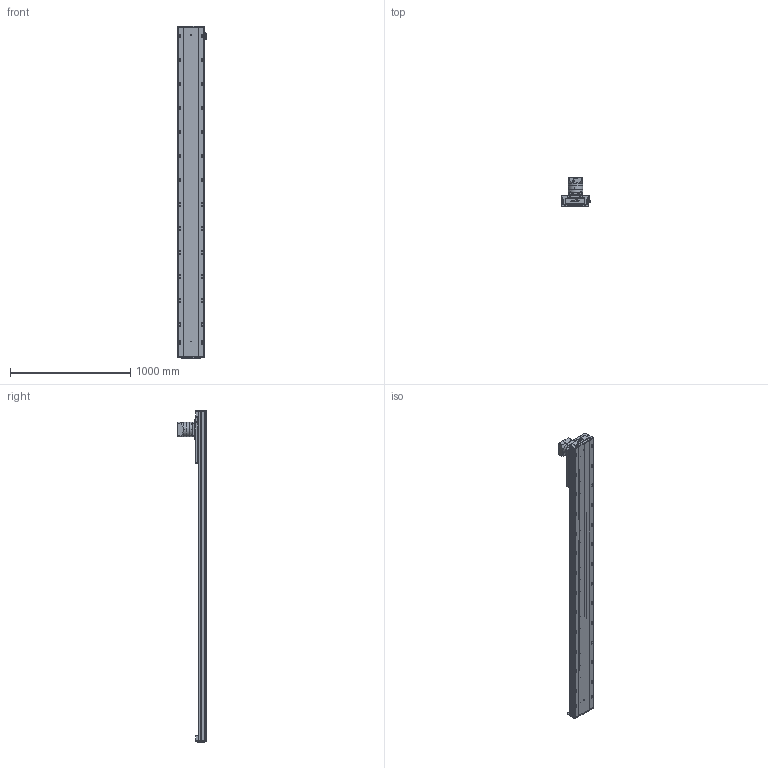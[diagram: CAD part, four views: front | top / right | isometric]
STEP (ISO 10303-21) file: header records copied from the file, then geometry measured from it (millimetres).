
FILE_DESCRIPTION (( 'STEP AP203' ), '1' );
FILE_NAME ('RY220-C-300-UK.SLDASM_2250.step', '2022-08-01T06:00:00', ( '' ), ( '' ), 'SwSTEP 2.0', 'SolidWorks 2016', '' );
FILE_SCHEMA (( 'CONFIG_CONTROL_DESIGN' ));
Length unit declared in the file: millimetre
Products named in the file (10): RY220喘沭綴裔啣; 滅袉蝶輸ㄗG412隅秶ㄘ; RY220喘沭俋离覜茼え; RY220喘沭賑輸; RY220-齿条模组电机安装板; RY220-C-300-UK.SLDASM_2250; PF115L1-S2-22-58-110-145-M8; RY140直线电机感应器674光电安装座; 覜茼ん674; RY220菁釱MK-300_2250
Assembly tree (12 placements, depth 2):
  RY220-C-300-UK.SLDASM_2250
    RY220菁釱MK-300_2250
    RY220喘沭賑輸
    RY220-齿条模组电机安装板
    PF115L1-S2-22-58-110-145-M8
    RY220喘沭綴裔啣  x2
    滅袉蝶輸ㄗG412隅秶ㄘ  x2
    RY140直线电机感应器674光电安装座
    覜茼ん674  x2
    RY220喘沭俋离覜茼え
Bounding box: 247 x 244.5 x 2759 mm (x, y, z)
Volume: 19122106.5 mm3; surface area: 3901698.7 mm2
Topology: 18 solids, 26 shells, 2262 faces, 6087 edges, 3816 vertices
Faces by surface type: cylinder 1085, plane 751, cone 264, bspline 162
Entity records: 71821 total; most frequent: CARTESIAN_POINT 19542, DIRECTION 10783, ORIENTED_EDGE 10546, EDGE_CURVE 5273, AXIS2_PLACEMENT_3D 4125, VERTEX_POINT 3442, EDGE_LOOP 2631, LINE 2533
